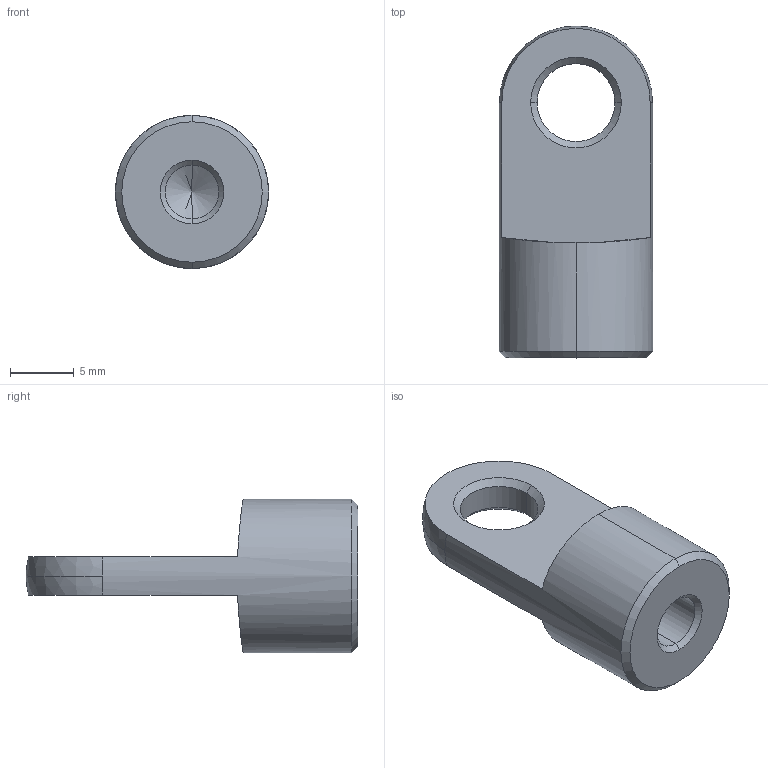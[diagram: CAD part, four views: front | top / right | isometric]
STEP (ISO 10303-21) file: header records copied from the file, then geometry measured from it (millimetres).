
FILE_DESCRIPTION (( 'STEP AP214' ), '1' );
FILE_NAME ('18.05E1L20.STEP', '2017-11-13T10:28:35', ( '' ), ( '' ), 'SwSTEP 2.0', 'SolidWorks 2016', '' );
FILE_SCHEMA (( 'AUTOMOTIVE_DESIGN' ));
Length unit declared in the file: millimetre
Products named in the file (1): 18.05E1L20
Bounding box: 12 x 26 x 12 mm (x, y, z)
Volume: 1368.2 mm3; surface area: 1099.6 mm2
Topology: 1 solids, 1 shells, 23 faces, 54 edges, 32 vertices
Faces by surface type: cone 10, cylinder 8, plane 3, sphere 2
Entity records: 740 total; most frequent: CARTESIAN_POINT 168, DIRECTION 124, ORIENTED_EDGE 104, EDGE_CURVE 52, AXIS2_PLACEMENT_3D 52, VERTEX_POINT 32, CIRCLE 28, EDGE_LOOP 26
